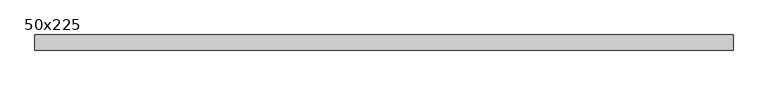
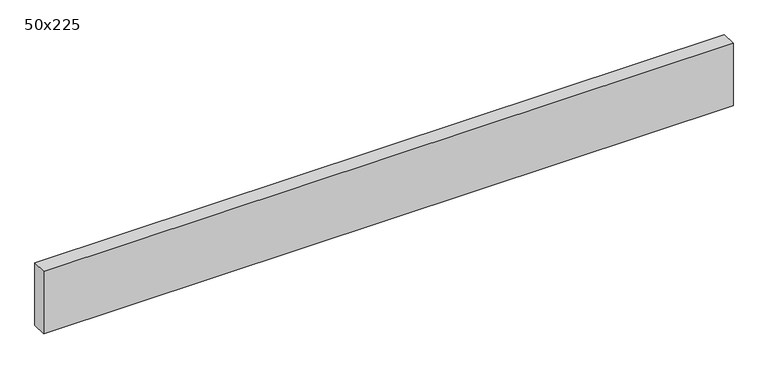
"""IFC4 building model written with IfcOpenShell, lengths in millimetres: beam geometry, Graded Timber : 50x225."""

from ifc_helpers import new_model, si_unit, frame, origin, place, context, project, spatial, polyline, outline, extrude, source, transform, mapped, element, save


def beam_50x225_8d0f3e26(model_context):
    return source(origin(), model_context, "Body", "SweptSolid", [
        extrude(outline(polyline([(1182.0, 25.0), (1182.0, -25.0), (-1122.0, -25.0), (-1122.0, 25.0), (1182.0, 25.0)])), frame((0.0, 0.0, -110.0), z_axis=(0.0, 0.0, 1.0), x_axis=(1.0, 0.0, 0.0)), (0.0, 0.0, 1.0), 220.0),
    ])


if __name__ == "__main__":
    model = new_model("IFC4")
    model_context = context("Model", 3, world=origin())
    ifc_project = project(units=[si_unit("LENGTHUNIT", "METRE", prefix="MILLI")], contexts=[model_context])
    site = spatial("IfcSite", under=ifc_project)
    building = spatial("IfcBuilding", under=site)
    placement = place(None, origin())
    beam_50x225_shape = beam_50x225_8d0f3e26(model_context)
    element("IfcBeam", 1, ObjectType="Graded Timber : 50x225", at=placement, inside=building, context=model_context, shape_type="MappedRepresentation", body=[
        mapped(beam_50x225_shape, transform((0.0, 0.0, 0.0), x_axis=(1.0, 0.0, 0.0), y_axis=(0.0, 1.0, 0.0), z_axis=(0.0, 0.0, 1.0))),
    ])
    save(model, "model.ifc")
